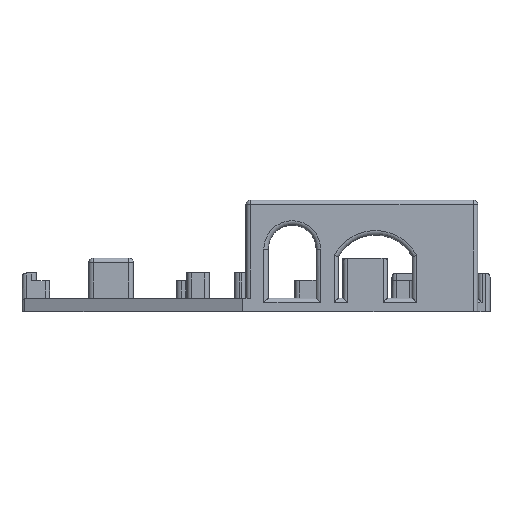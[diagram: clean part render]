
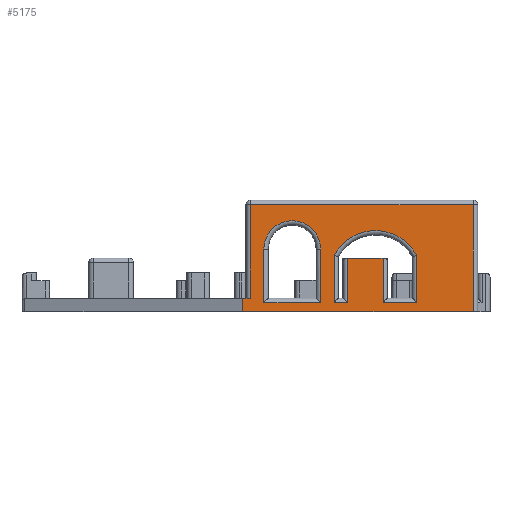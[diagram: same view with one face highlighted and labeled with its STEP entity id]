
A CAD part, top view. The second image highlights one B-rep face of the part: STEP entity #5175.
In plain terms, the highlighted planar face has unit normal (0, 0, 1).
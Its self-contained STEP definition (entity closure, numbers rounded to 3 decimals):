
#15=FACE_BOUND('',#1744,.T.);
#16=FACE_BOUND('',#1745,.T.);
#53=PLANE('',#5518);
#284=LINE('',#7849,#792);
#292=LINE('',#7872,#800);
#293=LINE('',#7876,#801);
#294=LINE('',#7878,#802);
#295=LINE('',#7880,#803);
#296=LINE('',#7881,#804);
#297=LINE('',#7884,#805);
#298=LINE('',#7886,#806);
#299=LINE('',#7888,#807);
#300=LINE('',#7892,#808);
#301=LINE('',#7894,#809);
#302=LINE('',#7896,#810);
#303=LINE('',#7897,#811);
#304=LINE('',#7900,#812);
#305=LINE('',#7902,#813);
#306=LINE('',#7905,#814);
#792=VECTOR('',#6144,10.);
#800=VECTOR('',#6170,10.);
#801=VECTOR('',#6175,10.);
#802=VECTOR('',#6176,10.);
#803=VECTOR('',#6177,10.);
#804=VECTOR('',#6178,10.);
#805=VECTOR('',#6179,10.);
#806=VECTOR('',#6180,10.);
#807=VECTOR('',#6181,10.);
#808=VECTOR('',#6184,10.);
#809=VECTOR('',#6185,10.);
#810=VECTOR('',#6186,10.);
#811=VECTOR('',#6187,10.);
#812=VECTOR('',#6188,10.);
#813=VECTOR('',#6189,10.);
#814=VECTOR('',#6192,10.);
#1442=FACE_OUTER_BOUND('',#1743,.T.);
#1743=EDGE_LOOP('',(#3639,#3640,#3641,#3642,#3643,#3644));
#1744=EDGE_LOOP('',(#3645,#3646,#3647,#3648,#3649,#3650,#3651,#3652));
#1745=EDGE_LOOP('',(#3653,#3654,#3655,#3656));
#2071=CIRCLE('',#5519,10.5);
#2072=CIRCLE('',#5520,6.375);
#2287=VERTEX_POINT('',#7846);
#2288=VERTEX_POINT('',#7848);
#2294=VERTEX_POINT('',#7871);
#2295=VERTEX_POINT('',#7875);
#2296=VERTEX_POINT('',#7877);
#2297=VERTEX_POINT('',#7879);
#2298=VERTEX_POINT('',#7882);
#2299=VERTEX_POINT('',#7883);
#2300=VERTEX_POINT('',#7885);
#2301=VERTEX_POINT('',#7887);
#2302=VERTEX_POINT('',#7889);
#2303=VERTEX_POINT('',#7891);
#2304=VERTEX_POINT('',#7893);
#2305=VERTEX_POINT('',#7895);
#2306=VERTEX_POINT('',#7898);
#2307=VERTEX_POINT('',#7899);
#2308=VERTEX_POINT('',#7901);
#2309=VERTEX_POINT('',#7903);
#2800=EDGE_CURVE('',#2287,#2288,#284,.T.);
#2812=EDGE_CURVE('',#2288,#2294,#292,.T.);
#2814=EDGE_CURVE('',#2295,#2287,#293,.T.);
#2815=EDGE_CURVE('',#2295,#2296,#294,.T.);
#2816=EDGE_CURVE('',#2296,#2297,#295,.T.);
#2817=EDGE_CURVE('',#2294,#2297,#296,.T.);
#2818=EDGE_CURVE('',#2298,#2299,#297,.T.);
#2819=EDGE_CURVE('',#2300,#2298,#298,.T.);
#2820=EDGE_CURVE('',#2301,#2300,#299,.T.);
#2821=EDGE_CURVE('',#2302,#2301,#2071,.T.);
#2822=EDGE_CURVE('',#2303,#2302,#300,.T.);
#2823=EDGE_CURVE('',#2304,#2303,#301,.T.);
#2824=EDGE_CURVE('',#2305,#2304,#302,.T.);
#2825=EDGE_CURVE('',#2299,#2305,#303,.T.);
#2826=EDGE_CURVE('',#2306,#2307,#304,.T.);
#2827=EDGE_CURVE('',#2308,#2306,#305,.T.);
#2828=EDGE_CURVE('',#2309,#2308,#2072,.T.);
#2829=EDGE_CURVE('',#2307,#2309,#306,.T.);
#3639=ORIENTED_EDGE('',*,*,#2800,.F.);
#3640=ORIENTED_EDGE('',*,*,#2814,.F.);
#3641=ORIENTED_EDGE('',*,*,#2815,.T.);
#3642=ORIENTED_EDGE('',*,*,#2816,.T.);
#3643=ORIENTED_EDGE('',*,*,#2817,.F.);
#3644=ORIENTED_EDGE('',*,*,#2812,.F.);
#3645=ORIENTED_EDGE('',*,*,#2818,.F.);
#3646=ORIENTED_EDGE('',*,*,#2819,.F.);
#3647=ORIENTED_EDGE('',*,*,#2820,.F.);
#3648=ORIENTED_EDGE('',*,*,#2821,.F.);
#3649=ORIENTED_EDGE('',*,*,#2822,.F.);
#3650=ORIENTED_EDGE('',*,*,#2823,.F.);
#3651=ORIENTED_EDGE('',*,*,#2824,.F.);
#3652=ORIENTED_EDGE('',*,*,#2825,.F.);
#3653=ORIENTED_EDGE('',*,*,#2826,.F.);
#3654=ORIENTED_EDGE('',*,*,#2827,.F.);
#3655=ORIENTED_EDGE('',*,*,#2828,.F.);
#3656=ORIENTED_EDGE('',*,*,#2829,.F.);
#5175=ADVANCED_FACE('',(#1442,#15,#16),#53,.T.);
#5518=AXIS2_PLACEMENT_3D('',#7874,#6173,#6174);
#5519=AXIS2_PLACEMENT_3D('',#7890,#6182,#6183);
#5520=AXIS2_PLACEMENT_3D('',#7904,#6190,#6191);
#6144=DIRECTION('',(1.,0.,0.));
#6170=DIRECTION('',(0.,-1.,0.));
#6173=DIRECTION('center_axis',(0.,0.,1.));
#6174=DIRECTION('ref_axis',(-1.,0.,0.));
#6175=DIRECTION('',(0.,1.,0.));
#6176=DIRECTION('',(-1.,0.,0.));
#6177=DIRECTION('',(0.,-1.,0.));
#6178=DIRECTION('',(-1.,0.,0.));
#6179=DIRECTION('',(0.,1.,0.));
#6180=DIRECTION('',(1.,0.,0.));
#6181=DIRECTION('',(0.,-1.,0.));
#6182=DIRECTION('center_axis',(0.,0.,1.));
#6183=DIRECTION('ref_axis',(0.,1.,0.));
#6184=DIRECTION('',(0.,1.,0.));
#6185=DIRECTION('',(1.,0.,0.));
#6186=DIRECTION('',(0.,-1.,0.));
#6187=DIRECTION('',(1.,0.,0.));
#6188=DIRECTION('',(1.,0.,0.));
#6189=DIRECTION('',(0.,-1.,0.));
#6190=DIRECTION('center_axis',(0.,0.,1.));
#6191=DIRECTION('ref_axis',(0.,1.,0.));
#6192=DIRECTION('',(0.,1.,0.));
#7846=CARTESIAN_POINT('',(51.25,21.,43.5));
#7848=CARTESIAN_POINT('',(101.25,21.,43.5));
#7849=CARTESIAN_POINT('',(85.375,21.,43.5));
#7871=CARTESIAN_POINT('',(101.25,-3.,43.5));
#7872=CARTESIAN_POINT('',(101.25,0.,43.5));
#7874=CARTESIAN_POINT('Origin',(102.25,0.,43.5));
#7875=CARTESIAN_POINT('',(51.25,0.,43.5));
#7876=CARTESIAN_POINT('',(51.25,0.,43.5));
#7877=CARTESIAN_POINT('',(49.5,0.,43.5));
#7878=CARTESIAN_POINT('',(105.,0.,43.5));
#7879=CARTESIAN_POINT('',(49.5,-3.,43.5));
#7880=CARTESIAN_POINT('',(49.5,0.,43.5));
#7881=CARTESIAN_POINT('',(105.,-3.,43.5));
#7882=CARTESIAN_POINT('',(73.,-1.,43.5));
#7883=CARTESIAN_POINT('',(73.,9.,43.5));
#7884=CARTESIAN_POINT('',(73.,0.,43.5));
#7885=CARTESIAN_POINT('',(70.,-1.,43.5));
#7886=CARTESIAN_POINT('',(77.375,-1.,43.5));
#7887=CARTESIAN_POINT('',(70.,9.572,43.5));
#7888=CARTESIAN_POINT('',(70.,0.,43.5));
#7889=CARTESIAN_POINT('',(88.559,9.572,43.5));
#7890=CARTESIAN_POINT('Origin',(79.28,4.658,43.5));
#7891=CARTESIAN_POINT('',(88.559,-1.,43.5));
#7892=CARTESIAN_POINT('',(88.559,0.,43.5));
#7893=CARTESIAN_POINT('',(81.,-1.,43.5));
#7894=CARTESIAN_POINT('',(77.375,-1.,43.5));
#7895=CARTESIAN_POINT('',(81.,9.,43.5));
#7896=CARTESIAN_POINT('',(81.,0.,43.5));
#7897=CARTESIAN_POINT('',(82.,9.,43.5));
#7898=CARTESIAN_POINT('',(54.25,-1.,43.5));
#7899=CARTESIAN_POINT('',(67.,-1.,43.5));
#7900=CARTESIAN_POINT('',(77.375,-1.,43.5));
#7901=CARTESIAN_POINT('',(54.25,11.,43.5));
#7902=CARTESIAN_POINT('',(54.25,0.,43.5));
#7903=CARTESIAN_POINT('',(67.,11.,43.5));
#7904=CARTESIAN_POINT('Origin',(60.625,11.,43.5));
#7905=CARTESIAN_POINT('',(67.,0.,43.5));
